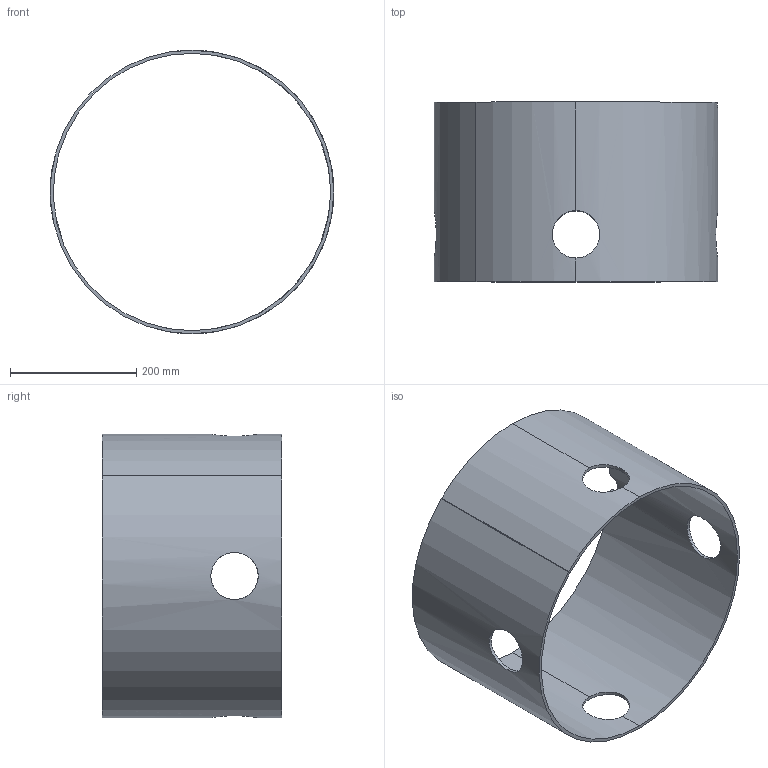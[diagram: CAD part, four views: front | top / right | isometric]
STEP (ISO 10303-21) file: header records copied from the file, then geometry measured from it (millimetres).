
FILE_DESCRIPTION (( 'STEP AP203' ), '1' );
FILE_NAME ('Virole supérieure Rép.3.5.STEP', '2016-02-29T13:16:00', ( '' ), ( '' ), 'SwSTEP 2.0', 'SolidWorks 2014', '' );
FILE_SCHEMA (( 'CONFIG_CONTROL_DESIGN' ));
Length unit declared in the file: millimetre
Products named in the file (1): Virole supérieure Rép.3.5
Bounding box: 449.99 x 285 x 450 mm (x, y, z)
Volume: 1900292.1 mm3; surface area: 781768.8 mm2
Topology: 1 solids, 1 shells, 20 faces, 66 edges, 44 vertices
Faces by surface type: cylinder 15, plane 5
Entity records: 1909 total; most frequent: CARTESIAN_POINT 1275, ORIENTED_EDGE 132, DIRECTION 96, EDGE_CURVE 66, VERTEX_POINT 44, AXIS2_PLACEMENT_3D 35, LINE 26, B_SPLINE_CURVE_WITH_KNOTS 26
